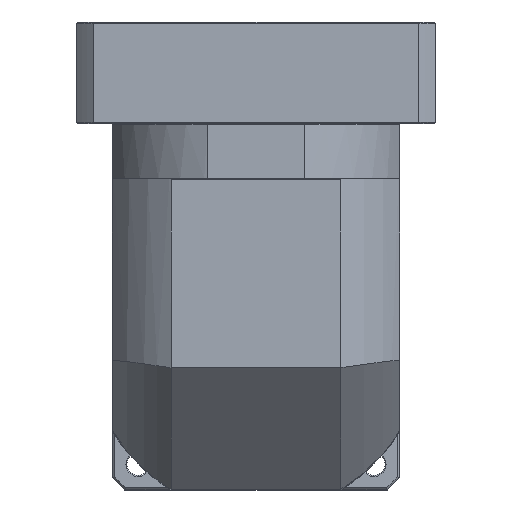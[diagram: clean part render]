
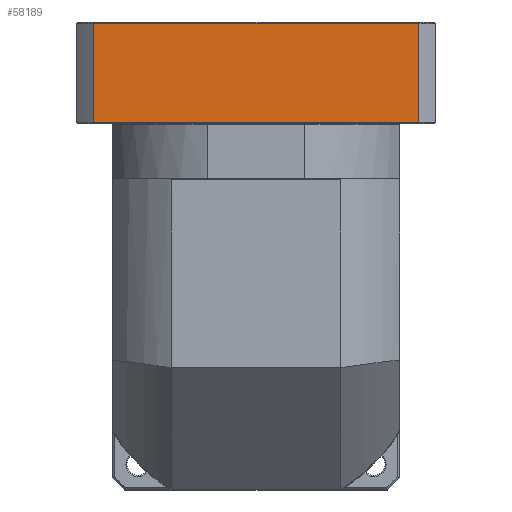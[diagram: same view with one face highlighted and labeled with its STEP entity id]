
A CAD part, top view. The second image highlights one B-rep face of the part: STEP entity #58189.
In plain terms, the highlighted planar face has unit normal (0, 0, 1).
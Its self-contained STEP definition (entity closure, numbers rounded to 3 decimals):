
#19052 = VERTEX_POINT ( 'NONE', #76494 ) ;
#21387 = CARTESIAN_POINT ( 'NONE',  ( -15.918, 242.405, 108.978 ) ) ;
#28591 = DIRECTION ( 'NONE',  ( 0., 1., 0. ) ) ;
#30267 = VERTEX_POINT ( 'NONE', #56369 ) ;
#35834 = VERTEX_POINT ( 'NONE', #137075 ) ;
#42610 = LINE ( 'NONE', #93696, #124263 ) ;
#43288 = FACE_OUTER_BOUND ( 'NONE', #132190, .T. ) ;
#51520 = EDGE_CURVE ( 'NONE', #19052, #125921, #122455, .T. ) ;
#52554 = DIRECTION ( 'NONE',  ( 1., 0., 0. ) ) ;
#55606 = LINE ( 'NONE', #97469, #107298 ) ;
#56369 = CARTESIAN_POINT ( 'NONE',  ( -167.411, 193.405, 108.978 ) ) ;
#56883 = LINE ( 'NONE', #124259, #58618 ) ;
#58189 = ADVANCED_FACE ( 'NONE', ( #43288 ), #115495, .F. ) ;
#58618 = VECTOR ( 'NONE', #102869, 1000. ) ;
#60048 = EDGE_CURVE ( 'NONE', #35834, #30267, #55606, .T. ) ;
#60094 = DIRECTION ( 'NONE',  ( 0., 0., -1. ) ) ;
#65733 = DIRECTION ( 'NONE',  ( -1., 0., 0. ) ) ;
#72135 = EDGE_CURVE ( 'NONE', #30267, #19052, #42610, .T. ) ;
#76494 = CARTESIAN_POINT ( 'NONE',  ( -167.411, 242.405, 108.978 ) ) ;
#78856 = CARTESIAN_POINT ( 'NONE',  ( -6.426, 242.405, 108.978 ) ) ;
#82942 = ORIENTED_EDGE ( 'NONE', *, *, #51520, .F. ) ;
#84302 = DIRECTION ( 'NONE',  ( 0., -1., 0. ) ) ;
#90064 = AXIS2_PLACEMENT_3D ( 'NONE', #94576, #60094, #84302 ) ;
#93696 = CARTESIAN_POINT ( 'NONE',  ( -167.411, -149.9, 108.978 ) ) ;
#94180 = VECTOR ( 'NONE', #52554, 1000. ) ;
#94576 = CARTESIAN_POINT ( 'NONE',  ( 2.082, 242.905, 108.978 ) ) ;
#97469 = CARTESIAN_POINT ( 'NONE',  ( 2.082, 193.405, 108.978 ) ) ;
#99498 = ORIENTED_EDGE ( 'NONE', *, *, #60048, .F. ) ;
#102869 = DIRECTION ( 'NONE',  ( 0., -1., 0. ) ) ;
#107298 = VECTOR ( 'NONE', #65733, 1000. ) ;
#115495 = PLANE ( 'NONE',  #90064 ) ;
#119150 = ORIENTED_EDGE ( 'NONE', *, *, #72135, .F. ) ;
#120549 = ORIENTED_EDGE ( 'NONE', *, *, #129169, .F. ) ;
#122455 = LINE ( 'NONE', #21387, #94180 ) ;
#124259 = CARTESIAN_POINT ( 'NONE',  ( -6.426, -149.9, 108.978 ) ) ;
#124263 = VECTOR ( 'NONE', #28591, 1000. ) ;
#125921 = VERTEX_POINT ( 'NONE', #78856 ) ;
#129169 = EDGE_CURVE ( 'NONE', #125921, #35834, #56883, .T. ) ;
#132190 = EDGE_LOOP ( 'NONE', ( #119150, #99498, #120549, #82942 ) ) ;
#137075 = CARTESIAN_POINT ( 'NONE',  ( -6.426, 193.405, 108.978 ) ) ;
